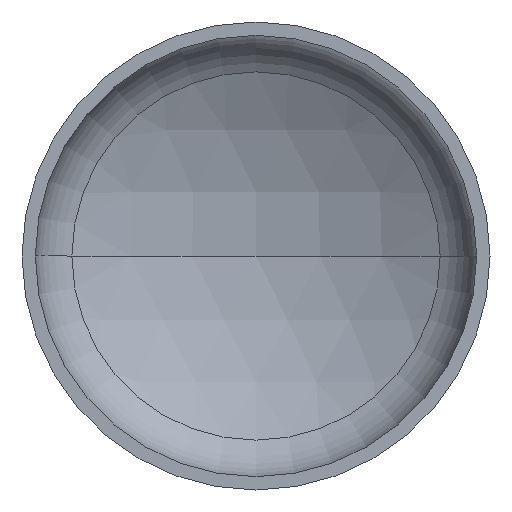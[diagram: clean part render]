
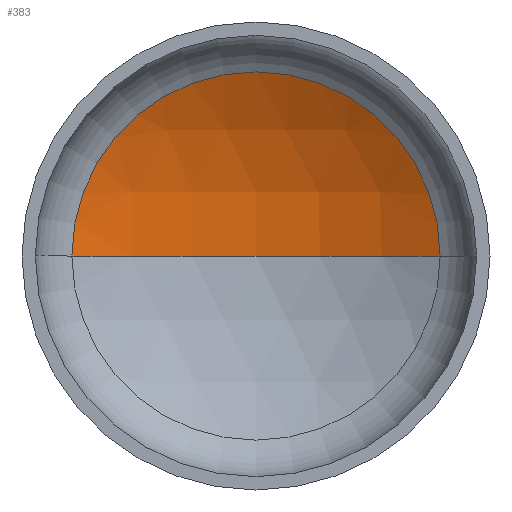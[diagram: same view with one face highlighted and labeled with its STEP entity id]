
A CAD part, front view. The second image highlights one B-rep face of the part: STEP entity #383.
In plain terms, the highlighted spherical face has radius 1120 mm.
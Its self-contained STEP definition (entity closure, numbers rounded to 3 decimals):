
#1 = DIRECTION ( 'NONE',  ( 1., 0., 0. ) ) ;
#17 = VERTEX_POINT ( 'NONE', #239 ) ;
#19 = AXIS2_PLACEMENT_3D ( 'NONE', #130, #341, #1 ) ;
#21 = AXIS2_PLACEMENT_3D ( 'NONE', #166, #146, #147 ) ;
#22 = DIRECTION ( 'NONE',  ( 0., 0., -1. ) ) ;
#23 = AXIS2_PLACEMENT_3D ( 'NONE', #194, #188, #190 ) ;
#55 = EDGE_CURVE ( 'NONE', #17, #135, #227, .T. ) ;
#57 = EDGE_CURVE ( 'NONE', #385, #17, #60, .T. ) ;
#58 = EDGE_CURVE ( 'NONE', #385, #135, #366, .T. ) ;
#60 = CIRCLE ( 'NONE', #21, 1120. ) ;
#65 = SPHERICAL_SURFACE ( 'NONE', #206, 1120. ) ;
#130 = CARTESIAN_POINT ( 'NONE',  ( 0., -668.036, 0. ) ) ;
#135 = VERTEX_POINT ( 'NONE', #158 ) ;
#136 = CARTESIAN_POINT ( 'NONE',  ( 0., -668.036, 0. ) ) ;
#146 = DIRECTION ( 'NONE',  ( 0., 0., -1. ) ) ;
#147 = DIRECTION ( 'NONE',  ( -1., 0., 0. ) ) ;
#158 = CARTESIAN_POINT ( 'NONE',  ( -550.718, 307.213, 0. ) ) ;
#166 = CARTESIAN_POINT ( 'NONE',  ( 0., -668.036, 0. ) ) ;
#174 = FACE_OUTER_BOUND ( 'NONE', #403, .T. ) ;
#188 = DIRECTION ( 'NONE',  ( 0., -1., 0. ) ) ;
#190 = DIRECTION ( 'NONE',  ( 1., 0., 0. ) ) ;
#194 = CARTESIAN_POINT ( 'NONE',  ( 0., 307.213, 0. ) ) ;
#201 = DIRECTION ( 'NONE',  ( -1., 0., 0. ) ) ;
#204 = ORIENTED_EDGE ( 'NONE', *, *, #57, .T. ) ;
#206 = AXIS2_PLACEMENT_3D ( 'NONE', #136, #22, #201 ) ;
#227 = CIRCLE ( 'NONE', #23, 550.718 ) ;
#239 = CARTESIAN_POINT ( 'NONE',  ( 550.718, 307.213, 0. ) ) ;
#271 = ORIENTED_EDGE ( 'NONE', *, *, #55, .T. ) ;
#341 = DIRECTION ( 'NONE',  ( 0., 0., 1. ) ) ;
#366 = CIRCLE ( 'NONE', #19, 1120. ) ;
#383 = ADVANCED_FACE ( 'NONE', ( #174 ), #65, .F. ) ;
#385 = VERTEX_POINT ( 'NONE', #394 ) ;
#391 = ORIENTED_EDGE ( 'NONE', *, *, #58, .F. ) ;
#394 = CARTESIAN_POINT ( 'NONE',  ( 0., 451.964, 0. ) ) ;
#403 = EDGE_LOOP ( 'NONE', ( #391, #204, #271 ) ) ;
